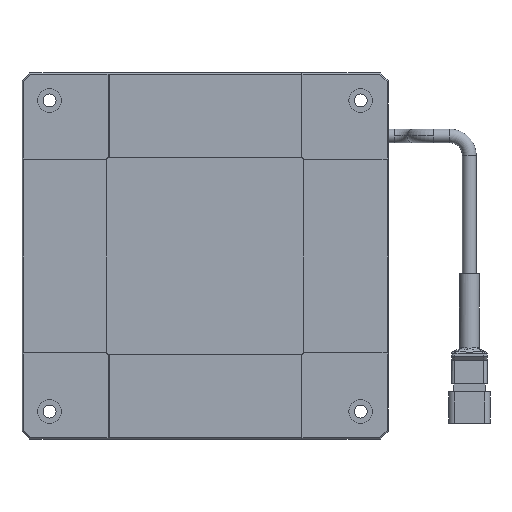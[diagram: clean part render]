
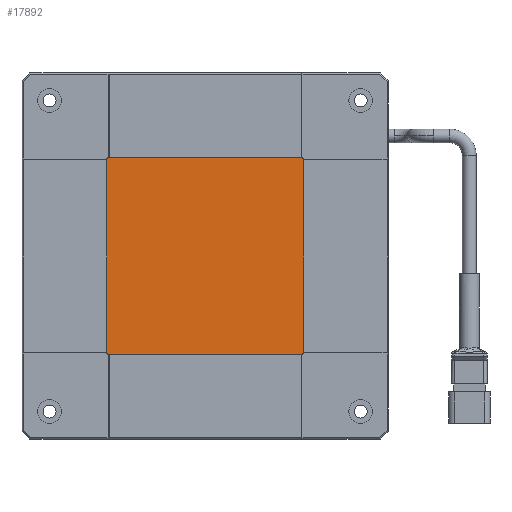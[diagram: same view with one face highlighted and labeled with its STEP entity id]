
A CAD part, front view. The second image highlights one B-rep face of the part: STEP entity #17892.
In plain terms, the highlighted planar face has unit normal (0, -1, 0).
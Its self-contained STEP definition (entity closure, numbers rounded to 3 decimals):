
#536 = VERTEX_POINT ( 'NONE', #19259 ) ;
#1935 = DIRECTION ( 'NONE',  ( 0., 0., 1. ) ) ;
#2003 = DIRECTION ( 'NONE',  ( -1., 0., 0. ) ) ;
#2124 = CARTESIAN_POINT ( 'NONE',  ( -28., 0., -28. ) ) ;
#3570 = CARTESIAN_POINT ( 'NONE',  ( -28., 0., 28. ) ) ;
#3607 = LINE ( 'NONE', #2124, #14986 ) ;
#3721 = EDGE_CURVE ( 'NONE', #536, #6331, #17087, .T. ) ;
#4728 = EDGE_CURVE ( 'NONE', #6331, #19421, #16304, .T. ) ;
#6047 = ORIENTED_EDGE ( 'NONE', *, *, #3721, .F. ) ;
#6331 = VERTEX_POINT ( 'NONE', #15115 ) ;
#6888 = ORIENTED_EDGE ( 'NONE', *, *, #12905, .F. ) ;
#7626 = ORIENTED_EDGE ( 'NONE', *, *, #4728, .F. ) ;
#8176 = EDGE_LOOP ( 'NONE', ( #8882, #7626, #6047, #6888 ) ) ;
#8450 = EDGE_CURVE ( 'NONE', #19421, #14964, #3607, .T. ) ;
#8882 = ORIENTED_EDGE ( 'NONE', *, *, #8450, .F. ) ;
#9790 = DIRECTION ( 'NONE',  ( 1., 0., 0. ) ) ;
#9914 = LINE ( 'NONE', #17244, #11581 ) ;
#10774 = PLANE ( 'NONE',  #17811 ) ;
#11581 = VECTOR ( 'NONE', #9790, 1000. ) ;
#12099 = VECTOR ( 'NONE', #13848, 1000. ) ;
#12386 = CARTESIAN_POINT ( 'NONE',  ( -28., 0., -28. ) ) ;
#12905 = EDGE_CURVE ( 'NONE', #14964, #536, #9914, .T. ) ;
#13848 = DIRECTION ( 'NONE',  ( 0., 0., -1. ) ) ;
#14964 = VERTEX_POINT ( 'NONE', #3570 ) ;
#14986 = VECTOR ( 'NONE', #1935, 1000. ) ;
#15115 = CARTESIAN_POINT ( 'NONE',  ( 28., 0., -28. ) ) ;
#15340 = CARTESIAN_POINT ( 'NONE',  ( 28., 0., -28. ) ) ;
#15826 = VECTOR ( 'NONE', #18534, 1000. ) ;
#16304 = LINE ( 'NONE', #15340, #15826 ) ;
#16892 = CARTESIAN_POINT ( 'NONE',  ( 28., 0., -28. ) ) ;
#17087 = LINE ( 'NONE', #16892, #12099 ) ;
#17244 = CARTESIAN_POINT ( 'NONE',  ( 28., 0., 28. ) ) ;
#17811 = AXIS2_PLACEMENT_3D ( 'NONE', #18610, #18551, #2003 ) ;
#17892 = ADVANCED_FACE ( 'NONE', ( #17960 ), #10774, .T. ) ;
#17960 = FACE_OUTER_BOUND ( 'NONE', #8176, .T. ) ;
#18534 = DIRECTION ( 'NONE',  ( -1., 0., 0. ) ) ;
#18551 = DIRECTION ( 'NONE',  ( 0., -1., 0. ) ) ;
#18610 = CARTESIAN_POINT ( 'NONE',  ( -28., 0., 28. ) ) ;
#19259 = CARTESIAN_POINT ( 'NONE',  ( 28., 0., 28. ) ) ;
#19421 = VERTEX_POINT ( 'NONE', #12386 ) ;
